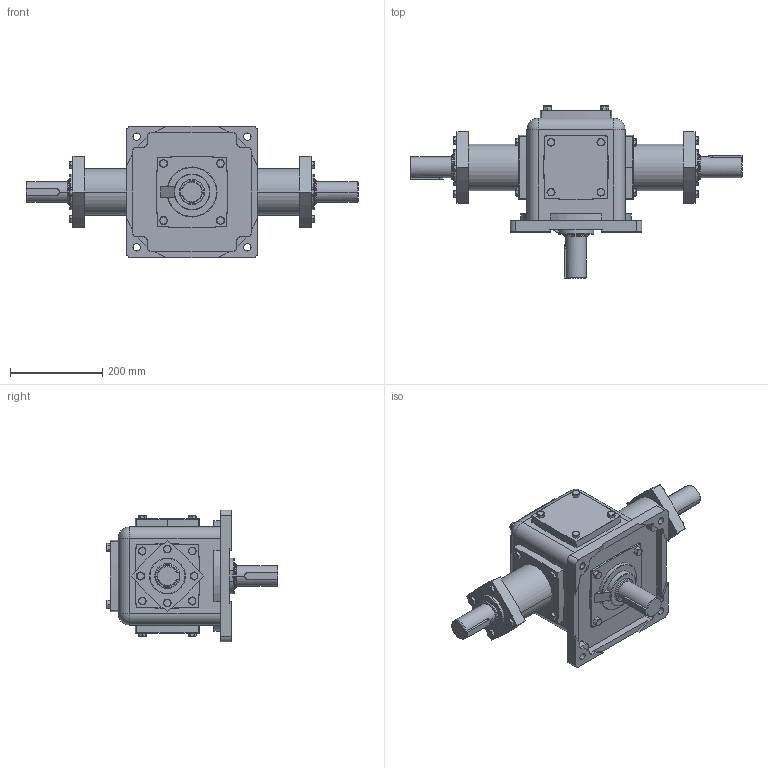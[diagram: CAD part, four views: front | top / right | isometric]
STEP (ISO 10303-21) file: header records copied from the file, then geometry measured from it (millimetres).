
FILE_DESCRIPTION (( 'STEP AP203' ), '1' );
FILE_NAME ('T10-1£º1-1-1-D-V5.step', '2018-07-13T01:34:36', ( 'IT Division' ), ( 'IT' ), 'SwSTEP 2.0', 'SolidWorks 2016', '' );
FILE_SCHEMA (( 'CONFIG_CONTROL_DESIGN' ));
Length unit declared in the file: millimetre
Products named in the file (1): T10-1：1-1-1-D-V5
Bounding box: 720 x 373 x 285 mm (x, y, z)
Volume: 15531934 mm3; surface area: 654759.8 mm2
Topology: 4 solids, 4 shells, 682 faces, 1607 edges, 978 vertices
Faces by surface type: plane 300, cone 227, cylinder 113, torus 38, sphere 4
Entity records: 22756 total; most frequent: CARTESIAN_POINT 7528, ORIENTED_EDGE 3206, DIRECTION 3049, EDGE_CURVE 1603, AXIS2_PLACEMENT_3D 1187, VERTEX_POINT 978, EDGE_LOOP 739, ADVANCED_FACE 682
